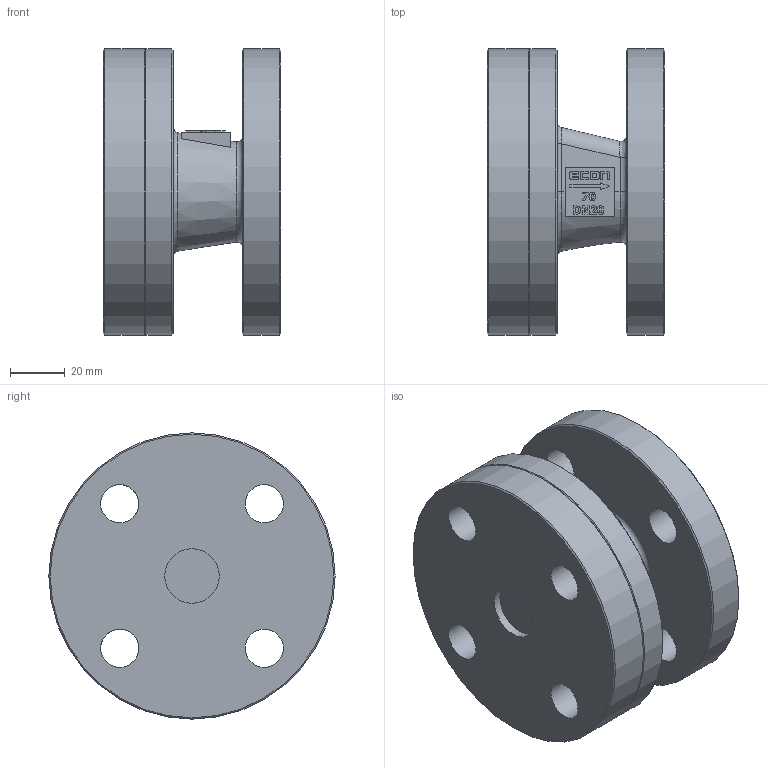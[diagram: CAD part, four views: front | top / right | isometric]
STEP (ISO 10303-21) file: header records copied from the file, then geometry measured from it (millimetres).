
FILE_DESCRIPTION(/* description */ ('Eriks item no: 12160576'),/* implementation_level */ '2;1');
FILE_NAME(/* name */ 'L:\DATA\ENG\Inventor\Econ 3D modellen\terugslagklep\70NGY\70NGY-DN20-PN16-NBR.stp',/* time_stamp */ '2023-12-05T08:16:00+01:00',/* author */ ('roger.thijssen'),/* organization */ (''),/* preprocessor_version */ 'ST-DEVELOPER v18',/* originating_system */ 'Autodesk Inventor 2020',/* authorisation */ '');
FILE_SCHEMA (('CONFIG_CONTROL_DESIGN'));
Length unit declared in the file: millimetre
Products named in the file (1): Check valve, 70NGY-DN20-PN16-NBR
Bounding box: 65 x 105 x 105 mm (x, y, z)
Volume: 354518.7 mm3; surface area: 52970 mm2
Topology: 1 solids, 1 shells, 190 faces, 502 edges, 332 vertices
Faces by surface type: plane 102, bspline 45, cylinder 34, cone 7, torus 2
Full cylindrical faces by diameter (mm): 14 x8, 20 x2, 105 x3
Entity records: 6463 total; most frequent: CARTESIAN_POINT 1846, ORIENTED_EDGE 1004, DIRECTION 807, EDGE_CURVE 502, VERTEX_POINT 332, LINE 319, VECTOR 319, AXIS2_PLACEMENT_3D 244
